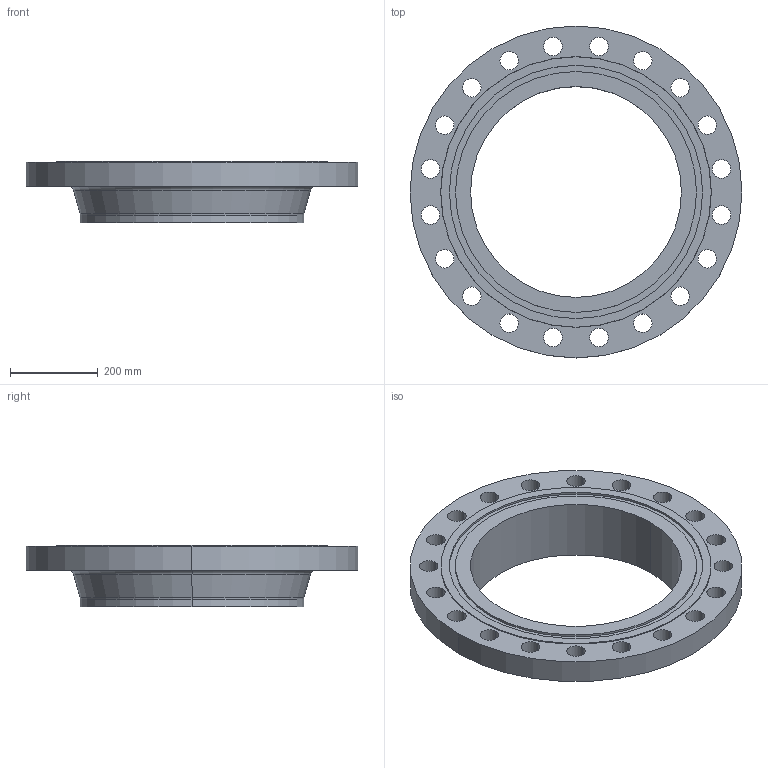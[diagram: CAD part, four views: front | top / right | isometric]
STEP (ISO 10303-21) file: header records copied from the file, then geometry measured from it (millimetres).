
FILE_DESCRIPTION (( 'STEP AP214' ), '1' );
FILE_NAME ('PN40 DN500 Type 11 - Type D Face.STEP', '2018-12-29T04:29:44', ( '' ), ( '' ), 'SwSTEP 2.0', 'SolidWorks 2019', '' );
FILE_SCHEMA (( 'AUTOMOTIVE_DESIGN' ));
Length unit declared in the file: millimetre
Products named in the file (1): PN40 DN500 Type 11 - Type D Face
Bounding box: 755 x 755 x 140 mm (x, y, z)
Volume: 16071466.6 mm3; surface area: 1092158.3 mm2
Topology: 1 solids, 1 shells, 64 faces, 168 edges, 110 vertices
Faces by surface type: cylinder 50, plane 6, torus 4, cone 4
Entity records: 2156 total; most frequent: DIRECTION 412, CARTESIAN_POINT 343, ORIENTED_EDGE 336, AXIS2_PLACEMENT_3D 179, EDGE_CURVE 168, CIRCLE 114, EDGE_LOOP 110, VERTEX_POINT 110
